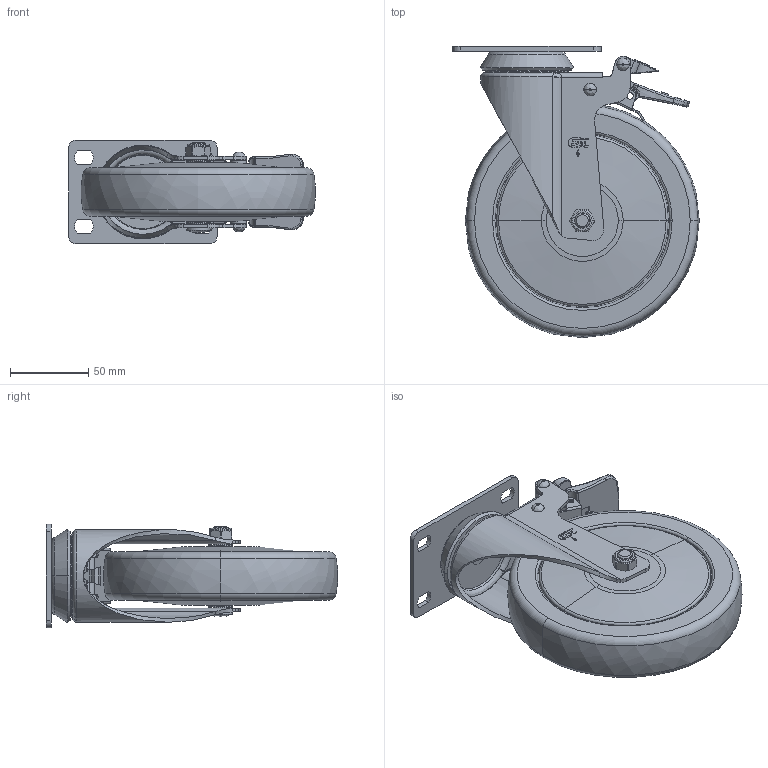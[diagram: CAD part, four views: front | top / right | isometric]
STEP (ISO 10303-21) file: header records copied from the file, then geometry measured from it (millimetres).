
FILE_DESCRIPTION((''),'2;1');
FILE_NAME('57226H-576-77_ASM','2021-01-05T',('lenovo'),(''),'PRO/ENGINEER BY PARAMETRIC TECHNOLOGY CORPORATION, 2010280','PRO/ENGINEER BY PARAMETRIC TECHNOLOGY CORPORATION, 2010280','');
FILE_SCHEMA(('CONFIG_CONTROL_DESIGN'));
Length unit declared in the file: millimetre
Products named in the file (10): 5710-201; 5726-321; 5720-211; 576-77; 5710-020; 5710-031; 570-64OFF; 5734-401; 571-64ON; 57226H-576-77_ASM
Assembly tree (9 placements, depth 2):
  57226H-576-77_ASM
    5710-201
    5726-321
    5720-211
    576-77
    5710-020
    5710-031
    570-64OFF
    5734-401
    571-64ON
Bounding box: 157.9 x 186.4 x 66.5 mm (x, y, z)
Volume: 675007.3 mm3; surface area: 124606 mm2
Topology: 9 solids, 9 shells, 841 faces, 2188 edges, 1389 vertices
Faces by surface type: plane 433, cylinder 211, bspline 82, cone 64, torus 47, sphere 4
Entity records: 29415 total; most frequent: CARTESIAN_POINT 8963, ORIENTED_EDGE 4368, DIRECTION 4053, EDGE_CURVE 2184, AXIS2_PLACEMENT_3D 1406, VERTEX_POINT 1389, VECTOR 1241, LINE 1241
